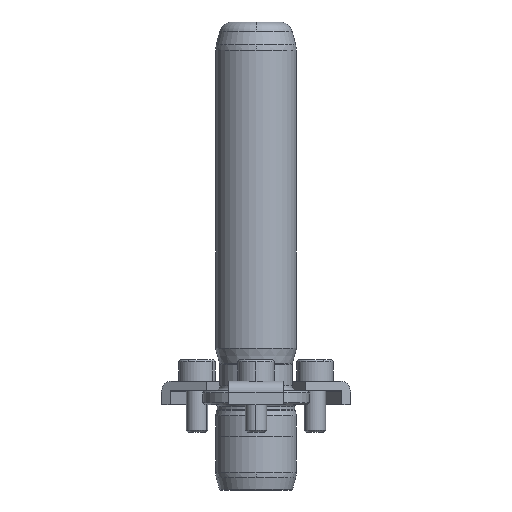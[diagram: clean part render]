
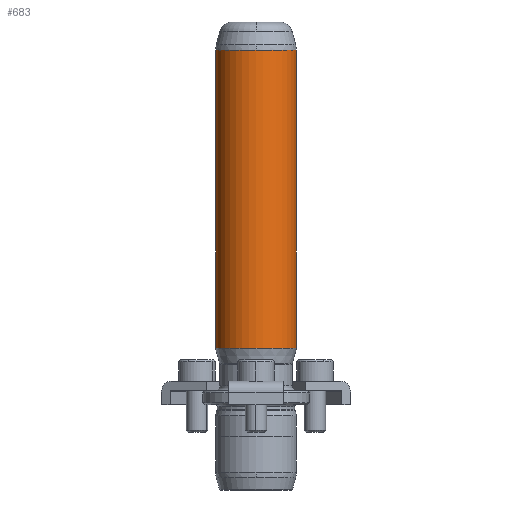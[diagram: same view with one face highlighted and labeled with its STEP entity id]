
A CAD part, front view. The second image highlights one B-rep face of the part: STEP entity #683.
In plain terms, the highlighted cylindrical face has radius 9.5 mm (diameter 19 mm), a partial arc.
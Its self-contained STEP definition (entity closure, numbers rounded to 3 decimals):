
#596=CARTESIAN_POINT('',(0.0,-9.5,83.342));
#597=VERTEX_POINT('',#596);
#624=CARTESIAN_POINT('',(-9.5,0.,83.342));
#625=VERTEX_POINT('',#624);
#633=CARTESIAN_POINT('',(0.0,0.,83.342));
#634=DIRECTION('',(0.0,0.0,1.0));
#635=DIRECTION('',(1.0,0.0,0.0));
#636=AXIS2_PLACEMENT_3D('',#633,#634,#635);
#637=CIRCLE('',#636,9.5);
#638=EDGE_CURVE('',#625,#597,#637,.T.);
#643=CARTESIAN_POINT('',(0.0,0.,48.321));
#644=DIRECTION('',(0.0,0.,1.0));
#645=DIRECTION('',(1.0,0.0,0.0));
#646=AXIS2_PLACEMENT_3D('',#643,#644,#645);
#647=CYLINDRICAL_SURFACE('',#646,9.5);
#648=CARTESIAN_POINT('',(9.5,0.,83.342));
#649=VERTEX_POINT('',#648);
#650=CARTESIAN_POINT('',(9.5,0.,13.3));
#651=VERTEX_POINT('',#650);
#652=CARTESIAN_POINT('',(9.5,0.,83.342));
#653=DIRECTION('',(0.0,0.0,-1.0));
#654=VECTOR('',#653,70.042);
#655=LINE('',#652,#654);
#656=EDGE_CURVE('',#649,#651,#655,.T.);
#657=ORIENTED_EDGE('',*,*,#656,.F.);
#658=CARTESIAN_POINT('',(0.0,0.,83.342));
#659=DIRECTION('',(0.0,0.0,1.0));
#660=DIRECTION('',(1.0,0.0,0.0));
#661=AXIS2_PLACEMENT_3D('',#658,#659,#660);
#662=CIRCLE('',#661,9.5);
#663=EDGE_CURVE('',#597,#649,#662,.T.);
#664=ORIENTED_EDGE('',*,*,#663,.F.);
#665=ORIENTED_EDGE('',*,*,#638,.F.);
#666=CARTESIAN_POINT('',(-9.5,0.,13.3));
#667=VERTEX_POINT('',#666);
#668=CARTESIAN_POINT('',(-9.5,0.,83.342));
#669=DIRECTION('',(0.0,0.0,-1.0));
#670=VECTOR('',#669,70.042);
#671=LINE('',#668,#670);
#672=EDGE_CURVE('',#625,#667,#671,.T.);
#673=ORIENTED_EDGE('',*,*,#672,.T.);
#674=CARTESIAN_POINT('',(0.0,0.,13.3));
#675=DIRECTION('',(0.0,0.0,1.0));
#676=DIRECTION('',(1.0,0.0,0.0));
#677=AXIS2_PLACEMENT_3D('',#674,#675,#676);
#678=CIRCLE('',#677,9.5);
#679=EDGE_CURVE('',#667,#651,#678,.T.);
#680=ORIENTED_EDGE('',*,*,#679,.T.);
#681=EDGE_LOOP('',(#657,#664,#665,#673,#680));
#682=FACE_OUTER_BOUND('',#681,.T.);
#683=ADVANCED_FACE('',(#682),#647,.T.);
